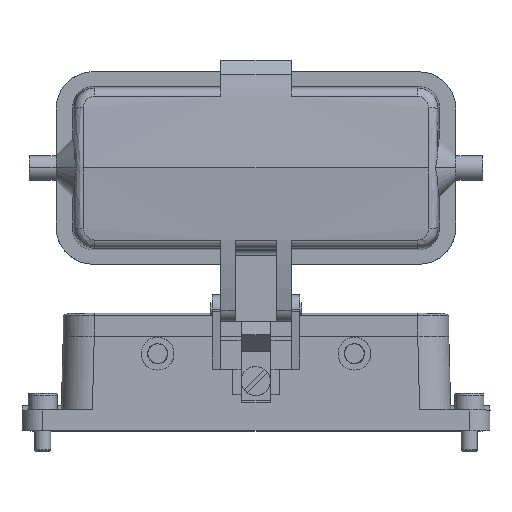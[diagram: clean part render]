
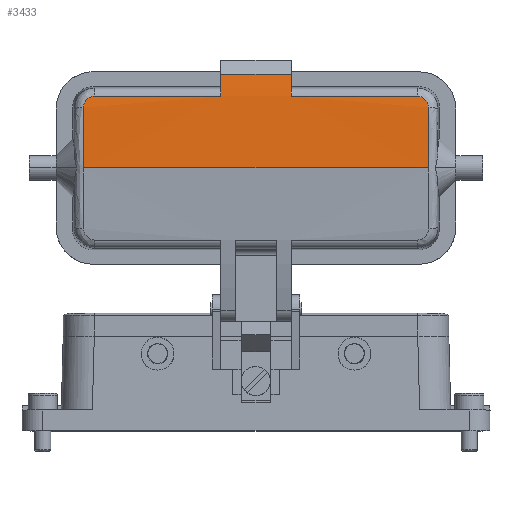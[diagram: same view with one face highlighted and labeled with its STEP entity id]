
A CAD part, top view. The second image highlights one B-rep face of the part: STEP entity #3433.
In plain terms, the highlighted cylindrical face has radius 120 mm (diameter 240 mm), a partial arc.
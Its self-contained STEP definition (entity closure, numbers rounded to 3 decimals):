
#2007 = ORIENTED_EDGE ( 'NONE', *, *, #11766, .F. ) ;
#2008 = ORIENTED_EDGE ( 'NONE', *, *, #3675, .T. ) ;
#2011 = ORIENTED_EDGE ( 'NONE', *, *, #3677, .T. ) ;
#2015 = ORIENTED_EDGE ( 'NONE', *, *, #3679, .T. ) ;
#2020 = ORIENTED_EDGE ( 'NONE', *, *, #3682, .T. ) ;
#2023 = ORIENTED_EDGE ( 'NONE', *, *, #3685, .T. ) ;
#2041 = ORIENTED_EDGE ( 'NONE', *, *, #13654, .T. ) ;
#2055 = ORIENTED_EDGE ( 'NONE', *, *, #13656, .T. ) ;
#2072 = ORIENTED_EDGE ( 'NONE', *, *, #11769, .T. ) ;
#2075 = ORIENTED_EDGE ( 'NONE', *, *, #11557, .F. ) ;
#2366 = VERTEX_POINT ( 'NONE', #12399 ) ;
#2387 = EDGE_LOOP ( 'NONE', ( #2075, #2072, #2055, #2041, #2023, #2020, #2015, #2011, #2008, #2007 ) ) ;
#2424 = VERTEX_POINT ( 'NONE', #12401 ) ;
#2460 = VERTEX_POINT ( 'NONE', #12397 ) ;
#3433 = ADVANCED_FACE ( 'F96', ( #9352 ), #9360, .T. ) ;
#3675 = EDGE_CURVE ( 'NONE', #2424, #5090, #14426, .T. ) ;
#3677 = EDGE_CURVE ( 'NONE', #5089, #2424, #9799, .T. ) ;
#3679 = EDGE_CURVE ( 'NONE', #2460, #5089, #9797, .T. ) ;
#3682 = EDGE_CURVE ( 'NONE', #2366, #2460, #9805, .T. ) ;
#3685 = EDGE_CURVE ( 'NONE', #5084, #2366, #9812, .T. ) ;
#3757 = CARTESIAN_POINT ( 'NONE',  ( 48.35, 62.121, 47.179 ) ) ;
#3758 = DIRECTION ( 'NONE',  ( -1., 0., 0. ) ) ;
#3765 = CARTESIAN_POINT ( 'NONE',  ( 41.631, 59.357, 47.549 ) ) ;
#3766 = CARTESIAN_POINT ( 'NONE',  ( 41.632, 59.539, 47.527 ) ) ;
#3770 = CARTESIAN_POINT ( 'NONE',  ( 41.615, 59.718, 47.505 ) ) ;
#3771 = CARTESIAN_POINT ( 'NONE',  ( 41.549, 60.069, 47.46 ) ) ;
#3772 = CARTESIAN_POINT ( 'NONE',  ( 41.5, 60.24, 47.438 ) ) ;
#3773 = CARTESIAN_POINT ( 'NONE',  ( 41.298, 60.748, 47.372 ) ) ;
#3774 = CARTESIAN_POINT ( 'NONE',  ( 41.106, 61.046, 47.331 ) ) ;
#3775 = CARTESIAN_POINT ( 'NONE',  ( 40.604, 61.566, 47.259 ) ) ;
#3776 = CARTESIAN_POINT ( 'NONE',  ( 40.311, 61.767, 47.23 ) ) ;
#3777 = CARTESIAN_POINT ( 'NONE',  ( 39.652, 62.05, 47.189 ) ) ;
#3778 = CARTESIAN_POINT ( 'NONE',  ( 39.307, 62.121, 47.179 ) ) ;
#3779 = CARTESIAN_POINT ( 'NONE',  ( 38.945, 62.121, 47.179 ) ) ;
#4653 = CARTESIAN_POINT ( 'NONE',  ( -41.601, 44.793, 48.436 ) ) ;
#4673 = CARTESIAN_POINT ( 'NONE',  ( 41.601, 44.793, 48.436 ) ) ;
#5084 = VERTEX_POINT ( 'NONE', #14959 ) ;
#5088 = VERTEX_POINT ( 'NONE', #14952 ) ;
#5089 = VERTEX_POINT ( 'NONE', #14954 ) ;
#5090 = VERTEX_POINT ( 'NONE', #14951 ) ;
#5093 = VERTEX_POINT ( 'NONE', #14949 ) ;
#6795 = LINE ( 'NONE', #9961, #6819 ) ;
#6819 = VECTOR ( 'NONE', #9965, 1000. ) ;
#7317 = LINE ( 'NONE', #3757, #7321 ) ;
#7321 = VECTOR ( 'NONE', #3758, 1000. ) ;
#9352 = FACE_OUTER_BOUND ( 'NONE', #2387, .T. ) ;
#9360 = CYLINDRICAL_SURFACE ( 'NONE', #13371, 120. ) ;
#9797 = CIRCLE ( 'NONE', #14609, 120. ) ;
#9799 = LINE ( 'NONE', #15049, #9801 ) ;
#9801 = VECTOR ( 'NONE', #15083, 1000. ) ;
#9805 = LINE ( 'NONE', #15032, #9808 ) ;
#9808 = VECTOR ( 'NONE', #15031, 1000. ) ;
#9812 = CIRCLE ( 'NONE', #14611, 120. ) ;
#9961 = CARTESIAN_POINT ( 'NONE',  ( 48.35, 44.793, 48.436 ) ) ;
#9965 = DIRECTION ( 'NONE',  ( -1., 0., 0. ) ) ;
#10670 = CARTESIAN_POINT ( 'NONE',  ( -41.601, 44.793, 48.436 ) ) ;
#10675 = CARTESIAN_POINT ( 'NONE',  ( -41.601, 45.998, 48.436 ) ) ;
#10679 = CARTESIAN_POINT ( 'NONE',  ( 41.601, 44.793, 48.436 ) ) ;
#10680 = CARTESIAN_POINT ( 'NONE',  ( -41.601, 47.203, 48.418 ) ) ;
#10681 = CARTESIAN_POINT ( 'NONE',  ( -41.606, 52.067, 48.272 ) ) ;
#10682 = CARTESIAN_POINT ( 'NONE',  ( -41.616, 55.722, 47.994 ) ) ;
#10683 = CARTESIAN_POINT ( 'NONE',  ( -41.631, 59.357, 47.549 ) ) ;
#10688 = CARTESIAN_POINT ( 'NONE',  ( 41.601, 49.654, 48.436 ) ) ;
#10693 = CARTESIAN_POINT ( 'NONE',  ( 41.611, 54.52, 48.141 ) ) ;
#10694 = CARTESIAN_POINT ( 'NONE',  ( 41.631, 59.357, 47.549 ) ) ;
#11557 = EDGE_CURVE ( 'NONE', #16229, #16184, #6795, .T. ) ;
#11766 = EDGE_CURVE ( 'NONE', #16184, #5090, #14499, .T. ) ;
#11769 = EDGE_CURVE ( 'NONE', #16229, #5088, #14500, .T. ) ;
#12397 = CARTESIAN_POINT ( 'NONE',  ( -8.5, 67.452, 46.278 ) ) ;
#12399 = CARTESIAN_POINT ( 'NONE',  ( 8.5, 67.452, 46.278 ) ) ;
#12401 = CARTESIAN_POINT ( 'NONE',  ( -38.945, 62.121, 47.179 ) ) ;
#13371 = AXIS2_PLACEMENT_3D ( 'NONE', #17126, #17125, #17117 ) ;
#13654 = EDGE_CURVE ( 'NONE', #5093, #5084, #7317, .T. ) ;
#13656 = EDGE_CURVE ( 'NONE', #5088, #5093, #14524, .T. ) ;
#14426 = B_SPLINE_CURVE_WITH_KNOTS ( 'NONE', 3,
 ( #15062, #15087, #15061, #15060, #15059, #15058, #15057, #15056, #15055, #15054, #15053, #15052, #15051, #15050 ),
 .UNSPECIFIED., .F., .F.,
 ( 4, 2, 2, 2, 2, 2, 4 ),
 ( 0., 0.125, 0.25, 0.375, 0.5, 0.75, 1. ),
 .UNSPECIFIED. ) ;
#14499 = B_SPLINE_CURVE_WITH_KNOTS ( 'NONE', 3,
 ( #10670, #10675, #10680, #10681, #10682, #10683 ),
 .UNSPECIFIED., .F., .F.,
 ( 4, 2, 4 ),
 ( 0., 0.248, 1. ),
 .UNSPECIFIED. ) ;
#14500 = B_SPLINE_CURVE_WITH_KNOTS ( 'NONE', 3,
 ( #10679, #10688, #10693, #10694 ),
 .UNSPECIFIED., .F., .F.,
 ( 4, 4 ),
 ( 0., 1. ),
 .UNSPECIFIED. ) ;
#14524 = B_SPLINE_CURVE_WITH_KNOTS ( 'NONE', 3,
 ( #3765, #3766, #3770, #3771, #3772, #3773, #3774, #3775, #3776, #3777, #3778, #3779 ),
 .UNSPECIFIED., .F., .F.,
 ( 4, 2, 2, 2, 2, 4 ),
 ( 0., 0.125, 0.25, 0.5, 0.75, 1. ),
 .UNSPECIFIED. ) ;
#14609 = AXIS2_PLACEMENT_3D ( 'NONE', #15040, #15039, #15038 ) ;
#14611 = AXIS2_PLACEMENT_3D ( 'NONE', #15024, #15023, #15022 ) ;
#14949 = CARTESIAN_POINT ( 'NONE',  ( 38.945, 62.121, 47.179 ) ) ;
#14951 = CARTESIAN_POINT ( 'NONE',  ( -41.631, 59.357, 47.549 ) ) ;
#14952 = CARTESIAN_POINT ( 'NONE',  ( 41.631, 59.357, 47.549 ) ) ;
#14954 = CARTESIAN_POINT ( 'NONE',  ( -8.5, 62.121, 47.179 ) ) ;
#14959 = CARTESIAN_POINT ( 'NONE',  ( 8.5, 62.121, 47.179 ) ) ;
#15022 = DIRECTION ( 'NONE',  ( 0., 0., 1. ) ) ;
#15023 = DIRECTION ( 'NONE',  ( -1., 0., 0. ) ) ;
#15024 = CARTESIAN_POINT ( 'NONE',  ( 8.5, 44.793, -71.564 ) ) ;
#15031 = DIRECTION ( 'NONE',  ( -1., 0., 0. ) ) ;
#15032 = CARTESIAN_POINT ( 'NONE',  ( 48.35, 67.452, 46.278 ) ) ;
#15038 = DIRECTION ( 'NONE',  ( 0., 0., 1. ) ) ;
#15039 = DIRECTION ( 'NONE',  ( 1., 0., 0. ) ) ;
#15040 = CARTESIAN_POINT ( 'NONE',  ( -8.5, 44.793, -71.564 ) ) ;
#15049 = CARTESIAN_POINT ( 'NONE',  ( 48.35, 62.121, 47.179 ) ) ;
#15050 = CARTESIAN_POINT ( 'NONE',  ( -41.631, 59.357, 47.549 ) ) ;
#15051 = CARTESIAN_POINT ( 'NONE',  ( -41.632, 59.721, 47.505 ) ) ;
#15052 = CARTESIAN_POINT ( 'NONE',  ( -41.566, 60.071, 47.46 ) ) ;
#15053 = CARTESIAN_POINT ( 'NONE',  ( -41.299, 60.746, 47.372 ) ) ;
#15054 = CARTESIAN_POINT ( 'NONE',  ( -41.106, 61.046, 47.331 ) ) ;
#15055 = CARTESIAN_POINT ( 'NONE',  ( -40.73, 61.435, 47.277 ) ) ;
#15056 = CARTESIAN_POINT ( 'NONE',  ( -40.593, 61.552, 47.261 ) ) ;
#15057 = CARTESIAN_POINT ( 'NONE',  ( -40.302, 61.753, 47.232 ) ) ;
#15058 = CARTESIAN_POINT ( 'NONE',  ( -40.147, 61.838, 47.22 ) ) ;
#15059 = CARTESIAN_POINT ( 'NONE',  ( -39.817, 61.979, 47.2 ) ) ;
#15060 = CARTESIAN_POINT ( 'NONE',  ( -39.647, 62.032, 47.192 ) ) ;
#15061 = CARTESIAN_POINT ( 'NONE',  ( -39.301, 62.103, 47.181 ) ) ;
#15062 = CARTESIAN_POINT ( 'NONE',  ( -38.945, 62.121, 47.179 ) ) ;
#15083 = DIRECTION ( 'NONE',  ( -1., 0., 0. ) ) ;
#15087 = CARTESIAN_POINT ( 'NONE',  ( -39.125, 62.121, 47.179 ) ) ;
#16184 = VERTEX_POINT ( 'NONE', #4653 ) ;
#16229 = VERTEX_POINT ( 'NONE', #4673 ) ;
#17117 = DIRECTION ( 'NONE',  ( 0., 0., 1. ) ) ;
#17125 = DIRECTION ( 'NONE',  ( -1., 0., 0. ) ) ;
#17126 = CARTESIAN_POINT ( 'NONE',  ( 48.35, 44.793, -71.564 ) ) ;
